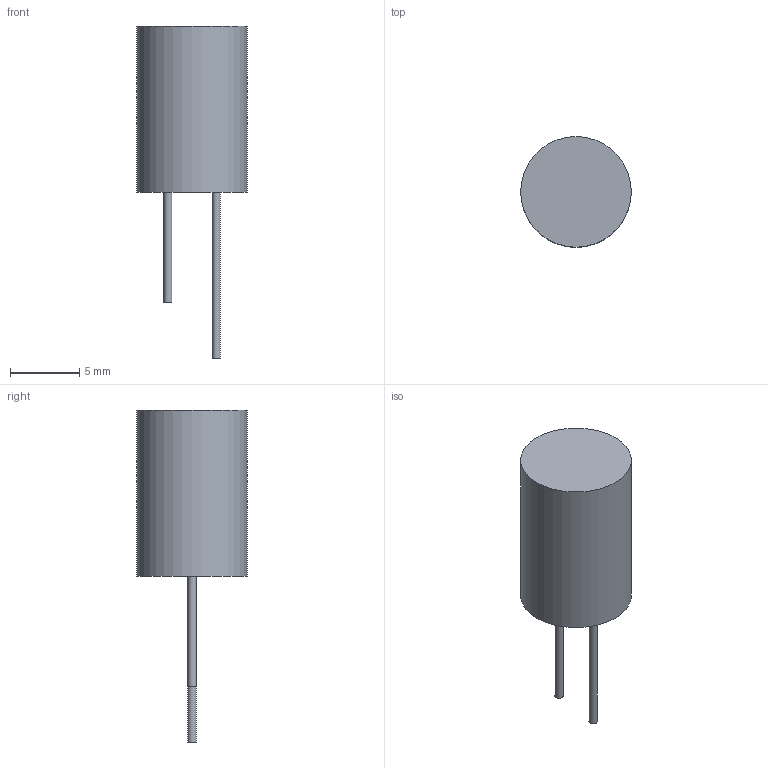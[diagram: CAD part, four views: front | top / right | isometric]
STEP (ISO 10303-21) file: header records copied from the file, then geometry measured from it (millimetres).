
FILE_DESCRIPTION(('Open CASCADE Model'),'2;1');
FILE_NAME('Abracon_AHCR-S04R0SA206Q_supercap_20F','2026-09-04T00:01:43', ('Author'),('Open CASCADE'),'Open CASCADE STEP processor 7.9', 'build123d','Unknown');
FILE_SCHEMA(('AUTOMOTIVE_DESIGN { 1 0 10303 214 1 1 1 1 }'));
Length unit declared in the file: millimetre
Products named in the file (4): Abracon_AHCR-S04R0SA206Q_supercap_20F; can_with_sleeve; lead_short_cathode_side; lead_long_anode_side
Assembly tree (3 placements, depth 2):
  Abracon_AHCR-S04R0SA206Q_supercap_20F
    can_with_sleeve
    lead_short_cathode_side
    lead_long_anode_side
Bounding box: 8 x 8 x 24 mm (x, y, z)
Volume: 608.8 mm3; surface area: 441 mm2
Topology: 3 solids, 3 shells, 9 faces, 9 edges, 6 vertices
Faces by surface type: plane 6, cylinder 3
Full cylindrical faces by diameter (mm): 0.6 x2, 8 x1
Entity records: 229 total; most frequent: DIRECTION 41, CARTESIAN_POINT 28, AXIS2_PLACEMENT_3D 19, ORIENTED_EDGE 18, ADVANCED_FACE 9, FACE_BOUND 9, EDGE_LOOP 9, EDGE_CURVE 9
